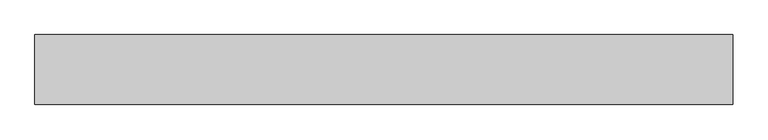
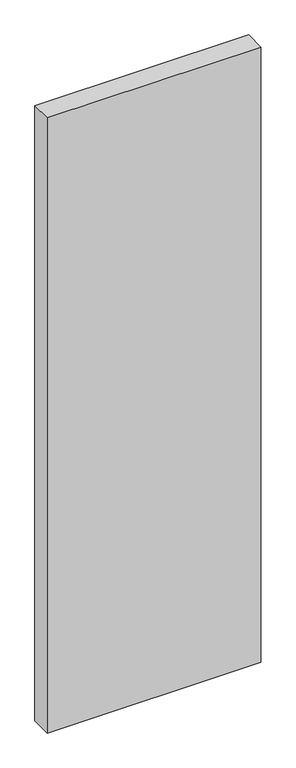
"""IFC4 building model written with IfcOpenShell, lengths in millimetres: proxy geometry."""

import ifcopenshell
import ifcopenshell.guid

model = None  # the IFC model being written
_history = None  # IfcOwnerHistory: only IFC2X3 demands one
_inside = {}  # id of a spatial element -> (the spatial element, [elements in it])
_under = {}  # id of a project, library or spatial element -> (it, [spatial elements below it])
_declared = {}  # id of a project -> (the project, [libraries it declares])
_typed = {}  # id of a type object -> (the type object, [elements of that type])
_made_of = {}  # id of a material, layer set ... -> (it, [elements and type objects made of it])


def new_model(schema):
    """Start an empty IFC model of exactly this schema.

    Asked for "IFC4X3", IfcOpenShell would pick the latest addendum, in which some entities
    have other attributes; the version numbers below select the first issue.
    IFC2X3 requires an IfcOwnerHistory on every rooted entity: one is made here for all.
    """
    global model, _history
    if schema == "IFC4X3":
        model = ifcopenshell.file(schema_version=(4, 3, 0, 0))
    else:
        model = ifcopenshell.file(schema=schema)
    _inside.clear()
    _under.clear()
    _declared.clear()
    _typed.clear()
    _made_of.clear()
    _history = None
    if model.schema == "IFC2X3":
        org = make("IfcOrganization", Name="unknown")
        user = make(
            "IfcPersonAndOrganization",
            ThePerson=make("IfcPerson", FamilyName="unknown"),
            TheOrganization=org,
        )
        app = make(
            "IfcApplication",
            ApplicationDeveloper=org,
            Version="unknown",
            ApplicationFullName="unknown",
            ApplicationIdentifier="unknown",
        )
        _history = make(
            "IfcOwnerHistory",
            OwningUser=user,
            OwningApplication=app,
            ChangeAction="ADDED",
            CreationDate=0,
        )
    return model


def make(cls, **values):
    """One entity of the class cls with the attributes given. An attribute that is None is left unset."""
    return model.create_entity(
        cls, **{name: value for name, value in values.items() if value is not None}
    )


def rooted(cls, **values):
    """An entity with a GlobalId (a new one), such as an element, a storey or a relation."""
    return make(cls, GlobalId=ifcopenshell.guid.new(), OwnerHistory=_history, **values)


def si_unit(unit_type, name, prefix=None):
    """IfcSIUnit, for example si_unit("LENGTHUNIT", "METRE", prefix="MILLI")."""
    return make("IfcSIUnit", UnitType=unit_type, Prefix=prefix, Name=name)


def assignment(units):
    """IfcUnitAssignment: the units of a project."""
    return None if units is None else make("IfcUnitAssignment", Units=units)


def point(xyz):
    """IfcCartesianPoint."""
    return None if xyz is None else make("IfcCartesianPoint", Coordinates=xyz)


def direction(xyz):
    """IfcDirection."""
    return None if xyz is None else make("IfcDirection", DirectionRatios=xyz)


def frame(location, z_axis=None, x_axis=None):
    """IfcAxis2Placement3D, a coordinate frame: its origin and axes. An axis left out is left unset."""
    return make(
        "IfcAxis2Placement3D",
        Location=point(location),
        Axis=direction(z_axis),
        RefDirection=direction(x_axis),
    )


def origin():
    """The frame at (0, 0, 0) with its axes left unset."""
    return frame((0.0, 0.0, 0.0))


def origin_with_axes():
    """The frame at (0, 0, 0) with the z axis (0, 0, 1) and the x axis (1, 0, 0) written out."""
    return frame((0.0, 0.0, 0.0), z_axis=(0.0, 0.0, 1.0), x_axis=(1.0, 0.0, 0.0))


def place(relative_to, where):
    """IfcLocalPlacement: puts the frame where relative to a parent placement (None: the world)."""
    return make(
        "IfcLocalPlacement", PlacementRelTo=relative_to, RelativePlacement=where
    )


def context(
    kind, dimensions, precision=None, world=None, true_north=None, identifier=None
):
    """IfcGeometricRepresentationContext, for example the 3D "Model" context."""
    return make(
        "IfcGeometricRepresentationContext",
        ContextIdentifier=identifier,
        ContextType=kind,
        CoordinateSpaceDimension=dimensions,
        Precision=precision,
        WorldCoordinateSystem=world,
        TrueNorth=true_north,
    )


def project(units=None, contexts=None):
    """IfcProject with its units and contexts."""
    return rooted(
        "IfcProject",
        Name="project",
        RepresentationContexts=contexts,
        UnitsInContext=assignment(units),
    )


def spatial(cls, under=None, at=None, **own):
    """A site, building, storey or space (cls), placed at a placement, below another one or the project."""
    s = rooted(cls, ObjectPlacement=at, **own)
    if under is not None:
        _under.setdefault(under.id(), (under, []))[1].append(s)
    return s


def polyline(points):
    """IfcPolyline through the points."""
    return make("IfcPolyline", Points=[point(p) for p in points])


def outline(outer, holes=None, kind="AREA"):
    """IfcArbitraryClosedProfileDef: a profile drawn as a closed curve; with holes, ...WithVoids."""
    if holes is None:
        return make("IfcArbitraryClosedProfileDef", ProfileType=kind, OuterCurve=outer)
    return make(
        "IfcArbitraryProfileDefWithVoids",
        ProfileType=kind,
        OuterCurve=outer,
        InnerCurves=holes,
    )


def extrude(swept, where, along, depth):
    """IfcExtrudedAreaSolid: the profile swept, set in the frame where, extruded along a direction by depth."""
    return make(
        "IfcExtrudedAreaSolid",
        SweptArea=swept,
        Position=where,
        ExtrudedDirection=direction(along),
        Depth=depth,
    )


def shape(context_of_items, identifier, shape_type, items):
    """IfcShapeRepresentation: the items that make up one representation, for example the "Body"."""
    return make(
        "IfcShapeRepresentation",
        ContextOfItems=context_of_items,
        RepresentationIdentifier=identifier,
        RepresentationType=shape_type,
        Items=items,
    )


def source(mapping_origin, context_of_items, identifier, shape_type, items):
    """IfcRepresentationMap: a shape defined once, which mapped items show again and again."""
    return make(
        "IfcRepresentationMap",
        MappingOrigin=mapping_origin,
        MappedRepresentation=shape(context_of_items, identifier, shape_type, items),
    )


def transform(
    local_origin,
    x_axis=None,
    y_axis=None,
    z_axis=None,
    scale=None,
    scale2=None,
    scale3=None,
    uniform=True,
):
    """IfcCartesianTransformationOperator3D, or its non-uniform kind. x_axis, y_axis, z_axis: its Axis1, 2, 3."""
    if uniform:
        return make(
            "IfcCartesianTransformationOperator3D",
            Axis1=direction(x_axis),
            Axis2=direction(y_axis),
            LocalOrigin=point(local_origin),
            Scale=scale,
            Axis3=direction(z_axis),
        )
    return make(
        "IfcCartesianTransformationOperator3DnonUniform",
        Axis1=direction(x_axis),
        Axis2=direction(y_axis),
        LocalOrigin=point(local_origin),
        Scale=scale,
        Axis3=direction(z_axis),
        Scale2=scale2,
        Scale3=scale3,
    )


def mapped(mapping_source, mapping_target):
    """IfcMappedItem: shows the shape of a source again, moved by a transform."""
    return make(
        "IfcMappedItem", MappingSource=mapping_source, MappingTarget=mapping_target
    )


def made_of(thing, what):
    """Note that an element or type object is made of a material, layer set ...; save() writes the relation."""
    if what is not None:
        _made_of.setdefault(what.id(), (what, []))[1].append(thing)
    return thing


def element(
    cls,
    number,
    at=None,
    inside=None,
    cuts=None,
    type_object=None,
    material=None,
    context=None,
    identifier="Body",
    shape_type=None,
    held_by="IfcProductDefinitionShape",
    body=None,
    shapes=None,
    **own,
):
    """One element of the class cls, such as IfcWall. Its Tag is "e" and its number.

    at: its placement. inside: the storey or other place that contains it. cuts: it is an
    opening in that element (IfcRelVoidsElement). A single representation is given by context,
    identifier, shape_type and body (its items); several are given by shapes. held_by: the class
    of the entity that holds the representations. save() writes the other relations.
    """
    e = rooted(cls, Tag="e%d" % number, ObjectPlacement=at, **own)
    if body is not None:
        shapes = [shape(context, identifier, shape_type, body)]
    if shapes is not None:
        e.Representation = make(held_by, Representations=shapes)
    if inside is not None:
        _inside.setdefault(inside.id(), (inside, []))[1].append(e)
    if cuts is not None:
        rooted(
            "IfcRelVoidsElement", RelatingBuildingElement=cuts, RelatedOpeningElement=e
        )
    if type_object is not None:
        _typed.setdefault(type_object.id(), (type_object, []))[1].append(e)
    return made_of(e, material)


def aggregate(whole, parts):
    """IfcRelAggregates: a whole, such as a stair, and the parts it consists of."""
    return rooted("IfcRelAggregates", RelatingObject=whole, RelatedObjects=parts)


def save(model, path):
    """Write the relations noted so far, then the file.

    IfcRelAggregates (storeys below a building ...), IfcRelContainedInSpatialStructure (elements
    in a storey), IfcRelDefinesByType, IfcRelAssociatesMaterial and IfcRelDeclares: one each for
    every whole, place, type object, material and project.
    """
    for whole, parts in _under.values():
        aggregate(whole, parts)
    for where, things in _inside.values():
        rooted(
            "IfcRelContainedInSpatialStructure",
            RelatedElements=things,
            RelatingStructure=where,
        )
    for kind, things in _typed.values():
        rooted("IfcRelDefinesByType", RelatedObjects=things, RelatingType=kind)
    for what, things in _made_of.values():
        rooted("IfcRelAssociatesMaterial", RelatedObjects=things, RelatingMaterial=what)
    for by, libraries in _declared.values():
        rooted("IfcRelDeclares", RelatingContext=by, RelatedDefinitions=libraries)
    model.write(path)


def generic_models_ab2088bd(model_context):
    return source(origin(), model_context, "Body", "SweptSolid", [
        extrude(outline(polyline([(-1000.0, 0.0), (0.0, 0.0), (0.0, -100.0), (-1000.0, -100.0), (-1000.0, 0.0)])), origin_with_axes(), (0.0, 0.0, 1.0), 3045.0),
    ])


if __name__ == "__main__":
    model = new_model("IFC4")
    model_context = context("Model", 3, world=origin())
    ifc_project = project(units=[si_unit("LENGTHUNIT", "METRE", prefix="MILLI")], contexts=[model_context])
    site = spatial("IfcSite", under=ifc_project)
    building = spatial("IfcBuilding", under=site)
    placement = place(None, origin())
    generic_models_shape = generic_models_ab2088bd(model_context)
    element("IfcBuildingElementProxy", 1, Name="Generic Models", at=placement, inside=building, context=model_context, shape_type="MappedRepresentation", body=[
        mapped(generic_models_shape, transform((0.0, 0.0, 0.0), x_axis=(1.0, 0.0, 0.0), y_axis=(0.0, 1.0, 0.0), z_axis=(0.0, 0.0, 1.0))),
    ])
    save(model, "model.ifc")
